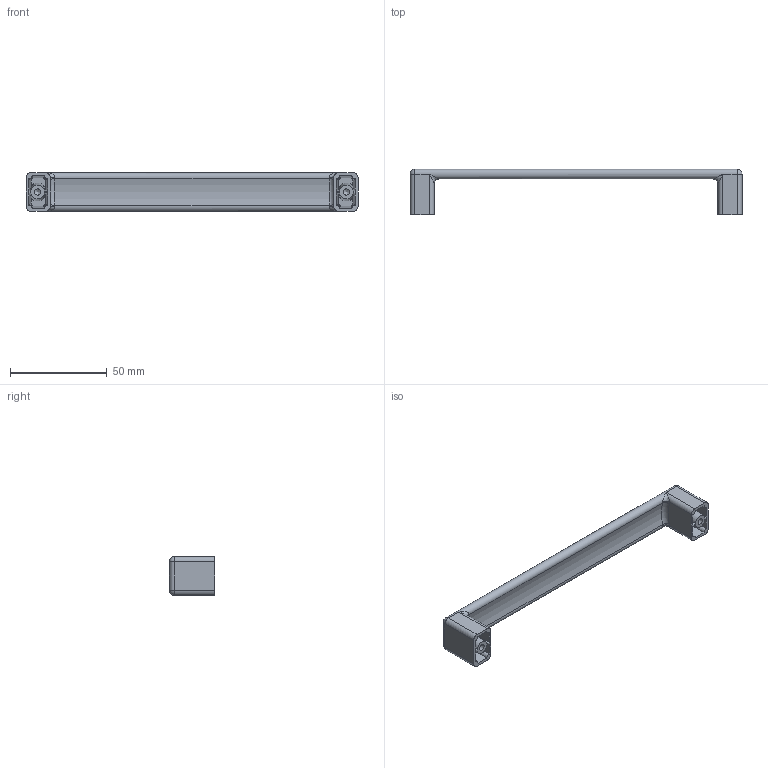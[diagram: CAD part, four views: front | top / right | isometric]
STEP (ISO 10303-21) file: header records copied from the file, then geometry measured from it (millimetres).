
FILE_DESCRIPTION(/* description */ ('Handle - DREVO'),/* implementation_level */ '2;1');
FILE_NAME(/* name */ 'D:\$Workingspace\Designs\Meblowka\uchwyty\UZ-DREVO_3\UZ-DREVO_3_160.stp',/* time_stamp */ '2018-05-17T15:59:16+02:00',/* author */ ('tomaszw'),/* organization */ (''),/* preprocessor_version */ 'ST-DEVELOPER v17',/* originating_system */ 'Autodesk Inventor 2019',/* authorisation */ '');
FILE_SCHEMA (('AUTOMOTIVE_DESIGN { 1 0 10303 214 3 1 1 }'));
Length unit declared in the file: millimetre
Products named in the file (1): UZ-DREVO_3-160
Bounding box: 172 x 23.5 x 20 mm (x, y, z)
Volume: 20235.1 mm3; surface area: 13220.9 mm2
Topology: 1 solids, 1 shells, 78 faces, 206 edges, 130 vertices
Faces by surface type: plane 35, cylinder 15, cone 14, torus 6, bspline 4, sphere 4
Full cylindrical faces by diameter (mm): 3.242 x2
Entity records: 2675 total; most frequent: CARTESIAN_POINT 753, DIRECTION 406, ORIENTED_EDGE 400, EDGE_CURVE 200, AXIS2_PLACEMENT_3D 163, VERTEX_POINT 130, EDGE_LOOP 84, LINE 80
